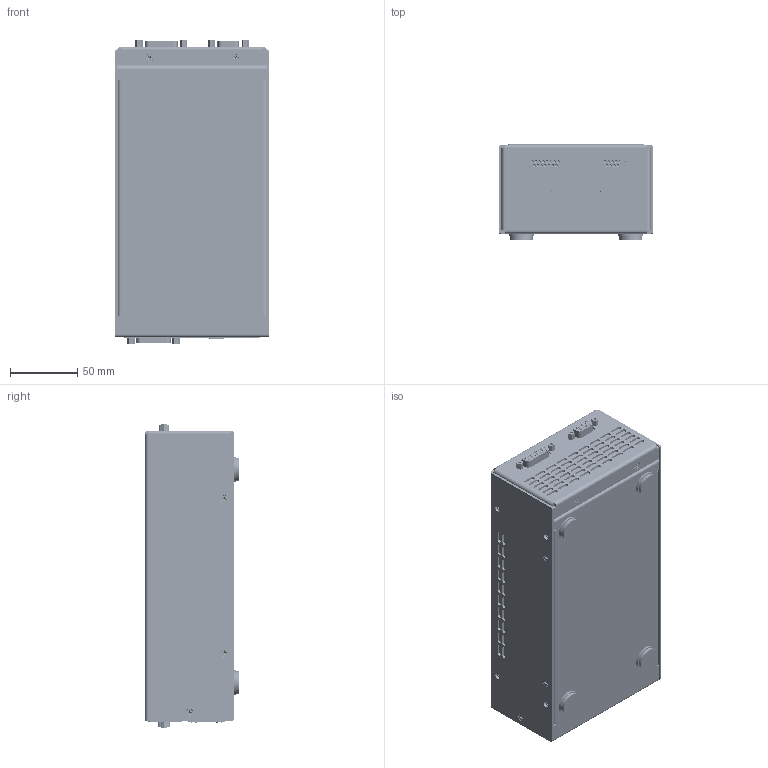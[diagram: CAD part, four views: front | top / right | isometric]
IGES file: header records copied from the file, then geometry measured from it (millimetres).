
Start section: SolidWorks IGES file using analytic representation for surfaces
Global section: file name: C:\Users\Mike\Dropbox\Mechanical Engr\Development Projects (P)\685 ComboPak\Customer Model Development\Step 4 - 685 ComboPak.IGS; native system: SolidWorks 2014; preprocessor: SolidWorks 2014; author: Mike; date: 150902.213417; units: inch
Bounding box: 114.3 x 70.36 x 225.43 mm (x, y, z)
Surface area: 113063.6 mm2 (no closed solid volume)
Topology: 0 solids, 0 shells, 3307 faces, 40043 edges, 39999 vertices
Faces by surface type: bspline 2440, revolution 867
